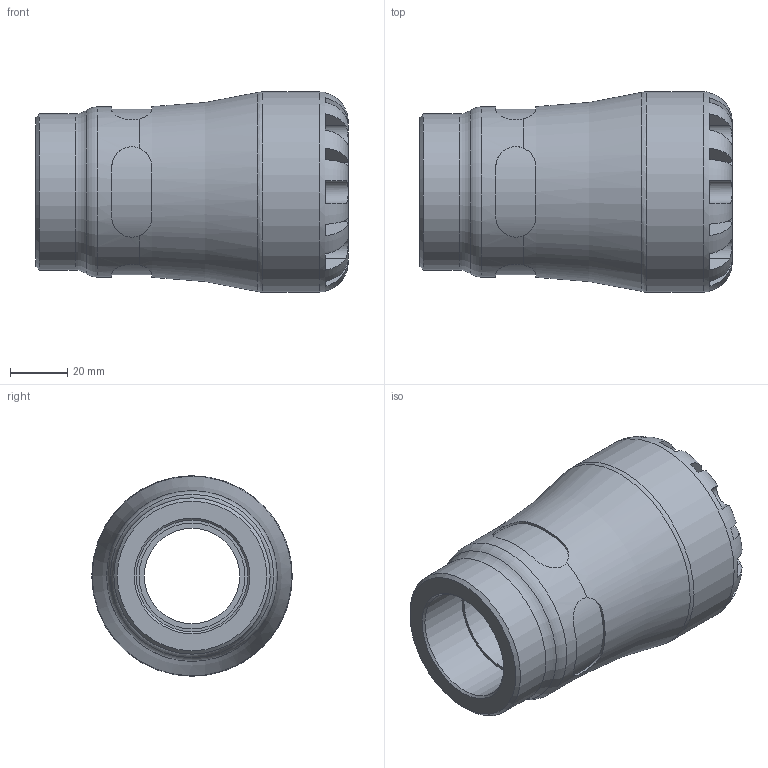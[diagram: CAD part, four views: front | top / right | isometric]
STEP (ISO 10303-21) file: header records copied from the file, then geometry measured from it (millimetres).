
FILE_DESCRIPTION(/* description */ ('PLASSON FEMALE INTEGRAL BRASS THREAD 40X1.1/4"G SERIES 1'),/* implementation_level */ '2;1');
FILE_NAME(/* name */ 'C:\Dropbox\KIMPROJECTS-Inventor\99-16-3568-Processing\1073G\1073G0040013.ipt.stp',/* time_stamp */ '2017-01-22T11:38:06+02:00',/* author */ ('KIM'),/* organization */ (''),/* preprocessor_version */ 'ST-DEVELOPER v15.6',/* originating_system */ 'Autodesk Inventor 2015',/* authorisation */ '');
FILE_SCHEMA (('AUTOMOTIVE_DESIGN { 1 0 10303 214 3 1 1 }'));
Length unit declared in the file: millimetre
Products named in the file (1): 1073G0040013
Bounding box: 109 x 70 x 70 mm (x, y, z)
Volume: 200522 mm3; surface area: 40557 mm2
Topology: 1 solids, 1 shells, 104 faces, 265 edges, 166 vertices
Faces by surface type: plane 61, cylinder 35, torus 5, cone 3
Full cylindrical faces by diameter (mm): 33.333 x1, 37.004 x1, 38.952 x1, 40 x1, 54.6 x1, 59.5 x1, 70 x1
Entity records: 3852 total; most frequent: CARTESIAN_POINT 1465, ORIENTED_EDGE 492, DIRECTION 478, EDGE_CURVE 246, AXIS2_PLACEMENT_3D 199, VERTEX_POINT 162, EDGE_LOOP 124, FACE_OUTER_BOUND 104
